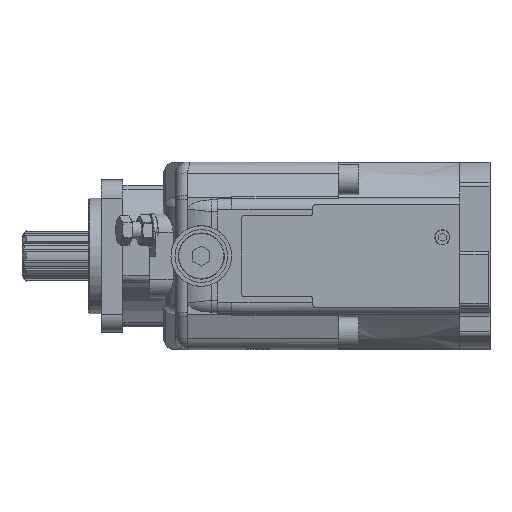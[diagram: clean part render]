
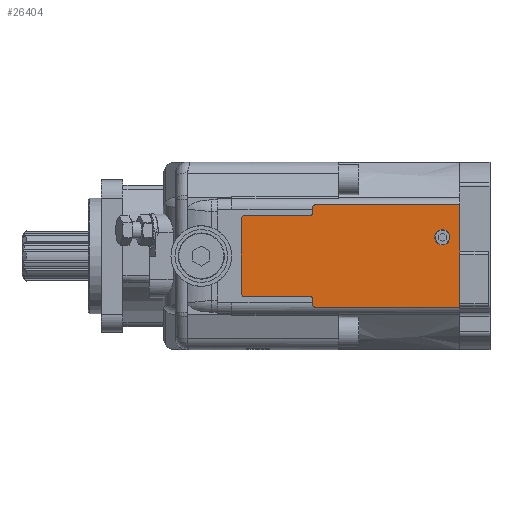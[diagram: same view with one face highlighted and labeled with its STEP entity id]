
A CAD part, front view. The second image highlights one B-rep face of the part: STEP entity #26404.
In plain terms, the highlighted planar face has unit normal (0, -1, 0).
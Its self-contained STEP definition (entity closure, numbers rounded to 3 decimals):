
#491=LINE('',#35531,#1829);
#495=LINE('',#35543,#1833);
#496=LINE('',#35549,#1834);
#497=LINE('',#35551,#1835);
#498=LINE('',#35553,#1836);
#499=LINE('',#35557,#1837);
#500=LINE('',#35561,#1838);
#501=LINE('',#35565,#1839);
#1829=VECTOR('',#29872,1000.);
#1833=VECTOR('',#29884,1000.);
#1834=VECTOR('',#29891,1000.);
#1835=VECTOR('',#29892,1000.);
#1836=VECTOR('',#29893,1000.);
#1837=VECTOR('',#29896,1000.);
#1838=VECTOR('',#29899,1000.);
#1839=VECTOR('',#29902,1000.);
#3159=PLANE('',#27677);
#3886=ORIENTED_EDGE('',*,*,#9004,.F.);
#3887=ORIENTED_EDGE('',*,*,#9003,.F.);
#3888=ORIENTED_EDGE('',*,*,#8999,.T.);
#3889=ORIENTED_EDGE('',*,*,#8997,.F.);
#3890=ORIENTED_EDGE('',*,*,#9005,.F.);
#3891=ORIENTED_EDGE('',*,*,#9006,.F.);
#3892=ORIENTED_EDGE('',*,*,#9007,.F.);
#3893=ORIENTED_EDGE('',*,*,#9008,.F.);
#3894=ORIENTED_EDGE('',*,*,#9009,.F.);
#3895=ORIENTED_EDGE('',*,*,#9010,.F.);
#3896=ORIENTED_EDGE('',*,*,#9011,.T.);
#3897=ORIENTED_EDGE('',*,*,#9012,.F.);
#3898=ORIENTED_EDGE('',*,*,#9013,.F.);
#3899=ORIENTED_EDGE('',*,*,#9014,.F.);
#3900=ORIENTED_EDGE('',*,*,#9015,.T.);
#8997=EDGE_CURVE('',#11557,#11554,#491,.T.);
#8999=EDGE_CURVE('',#11559,#11554,#13325,.T.);
#9003=EDGE_CURVE('',#11559,#11561,#495,.T.);
#9004=EDGE_CURVE('',#11561,#11562,#13326,.T.);
#9005=EDGE_CURVE('',#11563,#11557,#13327,.T.);
#9006=EDGE_CURVE('',#11564,#11563,#496,.T.);
#9007=EDGE_CURVE('',#11565,#11564,#497,.T.);
#9008=EDGE_CURVE('',#11566,#11565,#498,.T.);
#9009=EDGE_CURVE('',#11567,#11566,#13328,.T.);
#9010=EDGE_CURVE('',#11568,#11567,#499,.T.);
#9011=EDGE_CURVE('',#11568,#11569,#13329,.T.);
#9012=EDGE_CURVE('',#11570,#11569,#500,.T.);
#9013=EDGE_CURVE('',#11571,#11570,#13330,.T.);
#9014=EDGE_CURVE('',#11562,#11571,#501,.T.);
#9015=EDGE_CURVE('',#11572,#11572,#13331,.T.);
#11554=VERTEX_POINT('',#35524);
#11557=VERTEX_POINT('',#35530);
#11559=VERTEX_POINT('',#35536);
#11561=VERTEX_POINT('',#35541);
#11562=VERTEX_POINT('',#35546);
#11563=VERTEX_POINT('',#35548);
#11564=VERTEX_POINT('',#35550);
#11565=VERTEX_POINT('',#35552);
#11566=VERTEX_POINT('',#35554);
#11567=VERTEX_POINT('',#35556);
#11568=VERTEX_POINT('',#35558);
#11569=VERTEX_POINT('',#35560);
#11570=VERTEX_POINT('',#35562);
#11571=VERTEX_POINT('',#35564);
#11572=VERTEX_POINT('',#35567);
#13325=CIRCLE('',#27675,2.);
#13326=CIRCLE('',#27678,2.);
#13327=CIRCLE('',#27679,2.);
#13328=CIRCLE('',#27680,2.);
#13329=CIRCLE('',#27681,2.);
#13330=CIRCLE('',#27682,2.);
#13331=CIRCLE('',#27683,5.25);
#14240=EDGE_LOOP('',(#3886,#3887,#3888,#3889,#3890,#3891,#3892,#3893,#3894,
#3895,#3896,#3897,#3898,#3899));
#14241=EDGE_LOOP('',(#3900));
#15858=FACE_BOUND('',#14240,.T.);
#15859=FACE_BOUND('',#14241,.T.);
#26404=ADVANCED_FACE('',(#15858,#15859),#3159,.F.);
#27675=AXIS2_PLACEMENT_3D('',#35535,#29877,#29878);
#27677=AXIS2_PLACEMENT_3D('',#35544,#29885,#29886);
#27678=AXIS2_PLACEMENT_3D('',#35545,#29887,#29888);
#27679=AXIS2_PLACEMENT_3D('',#35547,#29889,#29890);
#27680=AXIS2_PLACEMENT_3D('',#35555,#29894,#29895);
#27681=AXIS2_PLACEMENT_3D('',#35559,#29897,#29898);
#27682=AXIS2_PLACEMENT_3D('',#35563,#29900,#29901);
#27683=AXIS2_PLACEMENT_3D('',#35566,#29903,#29904);
#29872=DIRECTION('',(0.,0.,1.));
#29877=DIRECTION('',(0.,1.,0.));
#29878=DIRECTION('',(1.,0.,0.));
#29884=DIRECTION('',(-1.,0.,0.));
#29885=DIRECTION('',(0.,1.,0.));
#29886=DIRECTION('',(0.,0.,1.));
#29887=DIRECTION('',(0.,1.,0.));
#29888=DIRECTION('',(1.,0.,0.));
#29889=DIRECTION('',(0.,1.,0.));
#29890=DIRECTION('',(1.,0.,0.));
#29891=DIRECTION('',(-1.,0.,0.));
#29892=DIRECTION('',(0.,0.,-1.));
#29893=DIRECTION('',(1.,0.,0.));
#29894=DIRECTION('',(0.,1.,0.));
#29895=DIRECTION('',(1.,0.,0.));
#29896=DIRECTION('',(0.,0.,1.));
#29897=DIRECTION('',(0.,1.,0.));
#29898=DIRECTION('',(1.,0.,0.));
#29899=DIRECTION('',(1.,0.,0.));
#29900=DIRECTION('',(0.,1.,0.));
#29901=DIRECTION('',(1.,0.,0.));
#29902=DIRECTION('',(0.,0.,1.));
#29903=DIRECTION('',(0.,1.,0.));
#29904=DIRECTION('',(1.,0.,0.));
#35524=CARTESIAN_POINT('',(56.,-101.,-30.));
#35530=CARTESIAN_POINT('',(56.,-101.,-33.5));
#35531=CARTESIAN_POINT('',(56.,-101.,-33.5));
#35535=CARTESIAN_POINT('',(54.,-101.,-30.));
#35536=CARTESIAN_POINT('',(54.,-101.,-28.));
#35541=CARTESIAN_POINT('',(8.6,-101.,-28.));
#35543=CARTESIAN_POINT('',(54.,-101.,-28.));
#35544=CARTESIAN_POINT('',(8.6,-101.,-26.));
#35545=CARTESIAN_POINT('',(8.6,-101.,-26.));
#35546=CARTESIAN_POINT('',(6.6,-101.,-26.));
#35547=CARTESIAN_POINT('',(58.,-101.,-33.5));
#35548=CARTESIAN_POINT('',(58.,-101.,-35.5));
#35549=CARTESIAN_POINT('',(158.,-101.,-35.5));
#35550=CARTESIAN_POINT('',(158.,-101.,-35.5));
#35551=CARTESIAN_POINT('',(158.,-101.,35.5));
#35552=CARTESIAN_POINT('',(158.,-101.,35.5));
#35553=CARTESIAN_POINT('',(58.,-101.,35.5));
#35554=CARTESIAN_POINT('',(58.,-101.,35.5));
#35555=CARTESIAN_POINT('',(58.,-101.,33.5));
#35556=CARTESIAN_POINT('',(56.,-101.,33.5));
#35557=CARTESIAN_POINT('',(56.,-101.,30.));
#35558=CARTESIAN_POINT('',(56.,-101.,30.));
#35559=CARTESIAN_POINT('',(54.,-101.,30.));
#35560=CARTESIAN_POINT('',(54.,-101.,28.));
#35561=CARTESIAN_POINT('',(8.6,-101.,28.));
#35562=CARTESIAN_POINT('',(8.6,-101.,28.));
#35563=CARTESIAN_POINT('',(8.6,-101.,26.));
#35564=CARTESIAN_POINT('',(6.6,-101.,26.));
#35565=CARTESIAN_POINT('',(6.6,-101.,-26.));
#35566=CARTESIAN_POINT('',(146.,-101.,13.));
#35567=CARTESIAN_POINT('',(151.25,-101.,13.));
